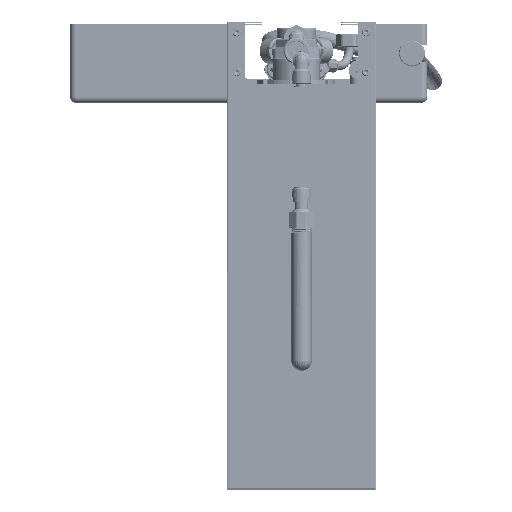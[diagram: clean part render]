
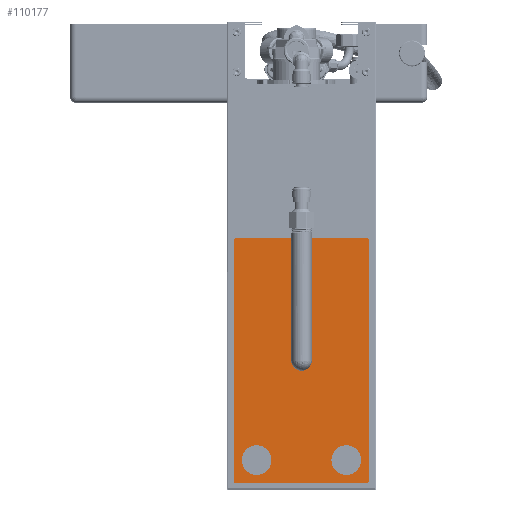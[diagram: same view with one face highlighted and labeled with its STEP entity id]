
A CAD part, top view. The second image highlights one B-rep face of the part: STEP entity #110177.
In plain terms, the highlighted planar face has unit normal (0, 0, 1).
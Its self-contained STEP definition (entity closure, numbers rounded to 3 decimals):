
#1037=ELLIPSE('',#120142,2.002,2.);
#1038=ELLIPSE('',#120143,2.002,2.);
#1039=ELLIPSE('',#120144,2.002,2.);
#1040=ELLIPSE('',#120145,2.002,2.);
#3078=FACE_BOUND('',#25890,.T.);
#3079=FACE_BOUND('',#25891,.T.);
#9200=CIRCLE('',#120134,14.918);
#9202=CIRCLE('',#120138,14.918);
#9203=CIRCLE('',#120146,10.3);
#18490=FACE_OUTER_BOUND('',#25889,.T.);
#25889=EDGE_LOOP('',(#99023,#99024,#99025,#99026,#99027,#99028,#99029,#99030,
#99031,#99032,#99033,#99034));
#25890=EDGE_LOOP('',(#99035));
#25891=EDGE_LOOP('',(#99036));
#34688=LINE('',#252012,#43356);
#34695=LINE('',#252025,#43363);
#34696=LINE('',#252027,#43364);
#34697=LINE('',#252031,#43365);
#34698=LINE('',#252035,#43366);
#34699=LINE('',#252039,#43367);
#34700=LINE('',#252042,#43368);
#43356=VECTOR('',#147717,55.701);
#43363=VECTOR('',#147726,123.);
#43364=VECTOR('',#147727,55.701);
#43365=VECTOR('',#147730,242.002);
#43366=VECTOR('',#147733,132.002);
#43367=VECTOR('',#147736,242.002);
#43368=VECTOR('',#147739,123.);
#53758=VERTEX_POINT('',#248841);
#53765=VERTEX_POINT('',#248884);
#53769=VERTEX_POINT('',#252008);
#53771=VERTEX_POINT('',#252011);
#53775=VERTEX_POINT('',#252023);
#53776=VERTEX_POINT('',#252024);
#53777=VERTEX_POINT('',#252026);
#53778=VERTEX_POINT('',#252028);
#53779=VERTEX_POINT('',#252030);
#53780=VERTEX_POINT('',#252032);
#53781=VERTEX_POINT('',#252034);
#53782=VERTEX_POINT('',#252036);
#53783=VERTEX_POINT('',#252038);
#53784=VERTEX_POINT('',#252041);
#69018=EDGE_CURVE('',#53758,#53758,#9200,.T.);
#69025=EDGE_CURVE('',#53765,#53765,#9202,.T.);
#69031=EDGE_CURVE('',#53771,#53769,#34688,.T.);
#69038=EDGE_CURVE('',#53775,#53776,#34695,.T.);
#69039=EDGE_CURVE('',#53775,#53777,#34696,.T.);
#69040=EDGE_CURVE('',#53778,#53777,#1037,.T.);
#69041=EDGE_CURVE('',#53778,#53779,#34697,.T.);
#69042=EDGE_CURVE('',#53780,#53779,#1038,.T.);
#69043=EDGE_CURVE('',#53780,#53781,#34698,.T.);
#69044=EDGE_CURVE('',#53782,#53781,#1039,.T.);
#69045=EDGE_CURVE('',#53782,#53783,#34699,.T.);
#69046=EDGE_CURVE('',#53771,#53783,#1040,.T.);
#69047=EDGE_CURVE('',#53784,#53769,#34700,.T.);
#69048=EDGE_CURVE('',#53776,#53784,#9203,.T.);
#99023=ORIENTED_EDGE('',*,*,#69038,.F.);
#99024=ORIENTED_EDGE('',*,*,#69039,.T.);
#99025=ORIENTED_EDGE('',*,*,#69040,.F.);
#99026=ORIENTED_EDGE('',*,*,#69041,.T.);
#99027=ORIENTED_EDGE('',*,*,#69042,.F.);
#99028=ORIENTED_EDGE('',*,*,#69043,.T.);
#99029=ORIENTED_EDGE('',*,*,#69044,.F.);
#99030=ORIENTED_EDGE('',*,*,#69045,.T.);
#99031=ORIENTED_EDGE('',*,*,#69046,.F.);
#99032=ORIENTED_EDGE('',*,*,#69031,.T.);
#99033=ORIENTED_EDGE('',*,*,#69047,.F.);
#99034=ORIENTED_EDGE('',*,*,#69048,.F.);
#99035=ORIENTED_EDGE('',*,*,#69018,.F.);
#99036=ORIENTED_EDGE('',*,*,#69025,.F.);
#104157=PLANE('',#120141);
#110177=ADVANCED_FACE('',(#18490,#3078,#3079),#104157,.T.);
#120134=AXIS2_PLACEMENT_3D('',#248842,#147703,#147704);
#120138=AXIS2_PLACEMENT_3D('',#248885,#147711,#147712);
#120141=AXIS2_PLACEMENT_3D('',#252022,#147724,#147725);
#120142=AXIS2_PLACEMENT_3D('',#252029,#147728,#147729);
#120143=AXIS2_PLACEMENT_3D('',#252033,#147731,#147732);
#120144=AXIS2_PLACEMENT_3D('',#252037,#147734,#147735);
#120145=AXIS2_PLACEMENT_3D('',#252040,#147737,#147738);
#120146=AXIS2_PLACEMENT_3D('',#252043,#147740,#147741);
#147703=DIRECTION('center_axis',(0.,0.,1.));
#147704=DIRECTION('ref_axis',(1.,0.,0.));
#147711=DIRECTION('center_axis',(0.,0.,1.));
#147712=DIRECTION('ref_axis',(1.,0.,0.));
#147717=DIRECTION('',(0.,1.,0.));
#147724=DIRECTION('center_axis',(0.,0.,1.));
#147725=DIRECTION('ref_axis',(1.,0.,0.));
#147726=DIRECTION('',(-1.,0.,0.));
#147727=DIRECTION('',(0.,1.,0.));
#147728=DIRECTION('center_axis',(0.,0.,-1.));
#147729=DIRECTION('ref_axis',(0.707,0.707,0.));
#147730=DIRECTION('',(-1.,0.,0.));
#147731=DIRECTION('center_axis',(0.,0.,-1.));
#147732=DIRECTION('ref_axis',(-0.707,0.707,0.));
#147733=DIRECTION('',(0.,-1.,0.));
#147734=DIRECTION('center_axis',(0.,0.,-1.));
#147735=DIRECTION('ref_axis',(-0.707,-0.707,0.));
#147736=DIRECTION('',(1.,0.,0.));
#147737=DIRECTION('center_axis',(0.,0.,-1.));
#147738=DIRECTION('ref_axis',(0.707,-0.707,0.));
#147739=DIRECTION('',(1.,0.,0.));
#147740=DIRECTION('center_axis',(0.,0.,1.));
#147741=DIRECTION('ref_axis',(0.,1.,0.));
#248841=CARTESIAN_POINT('',(-85.082,45.,7.5));
#248842=CARTESIAN_POINT('Origin',(-100.,45.,7.5));
#248884=CARTESIAN_POINT('',(-85.082,-45.,7.5));
#248885=CARTESIAN_POINT('Origin',(-100.,-45.,7.5));
#252008=CARTESIAN_POINT('',(123.,-10.3,7.5));
#252011=CARTESIAN_POINT('',(123.,-66.001,7.5));
#252012=CARTESIAN_POINT('',(123.,-66.001,7.5));
#252022=CARTESIAN_POINT('Origin',(7.012,-48.193,7.5));
#252023=CARTESIAN_POINT('',(123.,10.3,7.5));
#252024=CARTESIAN_POINT('',(0.,10.3,7.5));
#252025=CARTESIAN_POINT('',(123.,10.3,7.5));
#252026=CARTESIAN_POINT('',(123.,66.001,7.5));
#252027=CARTESIAN_POINT('',(123.,10.3,7.5));
#252028=CARTESIAN_POINT('',(121.001,68.,7.5));
#252029=CARTESIAN_POINT('Origin',(120.999,65.999,7.5));
#252030=CARTESIAN_POINT('',(-121.001,68.,7.5));
#252031=CARTESIAN_POINT('',(121.001,68.,7.5));
#252032=CARTESIAN_POINT('',(-123.,66.001,7.5));
#252033=CARTESIAN_POINT('Origin',(-120.999,65.999,7.5));
#252034=CARTESIAN_POINT('',(-123.,-66.001,7.5));
#252035=CARTESIAN_POINT('',(-123.,66.001,7.5));
#252036=CARTESIAN_POINT('',(-121.001,-68.,7.5));
#252037=CARTESIAN_POINT('Origin',(-120.999,-65.999,7.5));
#252038=CARTESIAN_POINT('',(121.001,-68.,7.5));
#252039=CARTESIAN_POINT('',(-121.001,-68.,7.5));
#252040=CARTESIAN_POINT('Origin',(120.999,-65.999,7.5));
#252041=CARTESIAN_POINT('',(0.,-10.3,7.5));
#252042=CARTESIAN_POINT('',(0.,-10.3,7.5));
#252043=CARTESIAN_POINT('Origin',(0.,0.,
7.5));
